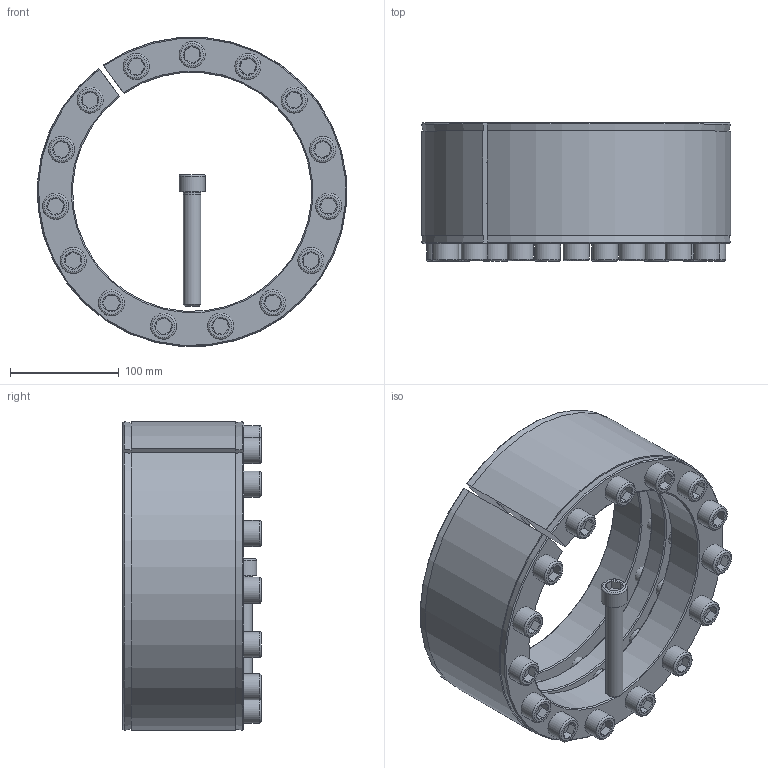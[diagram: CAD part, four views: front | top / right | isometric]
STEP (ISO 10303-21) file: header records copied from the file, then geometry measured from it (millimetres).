
FILE_DESCRIPTION( ( 'Unknown' ), '1' );
FILE_NAME( 'C:/Users/Frank/Eigene Daten/CAD/Solid Edge/KBK Karpstein/KBS Layout Baureihen/KBS 18/KBS - 220 x 285.stp', 'Unknown', ( 'Unknown' ), ( 'Unknown' ), 'XStep 1.0', 'Unknown', ' ' );
FILE_SCHEMA( ( 'automotive_design' ) );
Length unit declared in the file: millimetre
Products named in the file (3): Assem1; KBS 18 - 220 x 285; ISO EN DIN 4762 M16x105
Bounding box: 284.37 x 127 x 284.19 mm (x, y, z)
Volume: 4709853.9 mm3; surface area: 841394.2 mm2
Topology: 18 solids, 18 shells, 572 faces, 1282 edges, 750 vertices
Faces by surface type: plane 242, cylinder 162, cone 136, torus 32
Full cylindrical faces by diameter (mm): 13 x16, 13.835 x30, 16 x32, 17.5 x60, 24 x16
Entity records: 4398 total; most frequent: CARTESIAN_POINT 1134, DIRECTION 674, ORIENTED_EDGE 544, AXIS2_PLACEMENT_3D 319, EDGE_CURVE 272, EDGE_LOOP 227, VERTEX_POINT 191, CIRCLE 191
